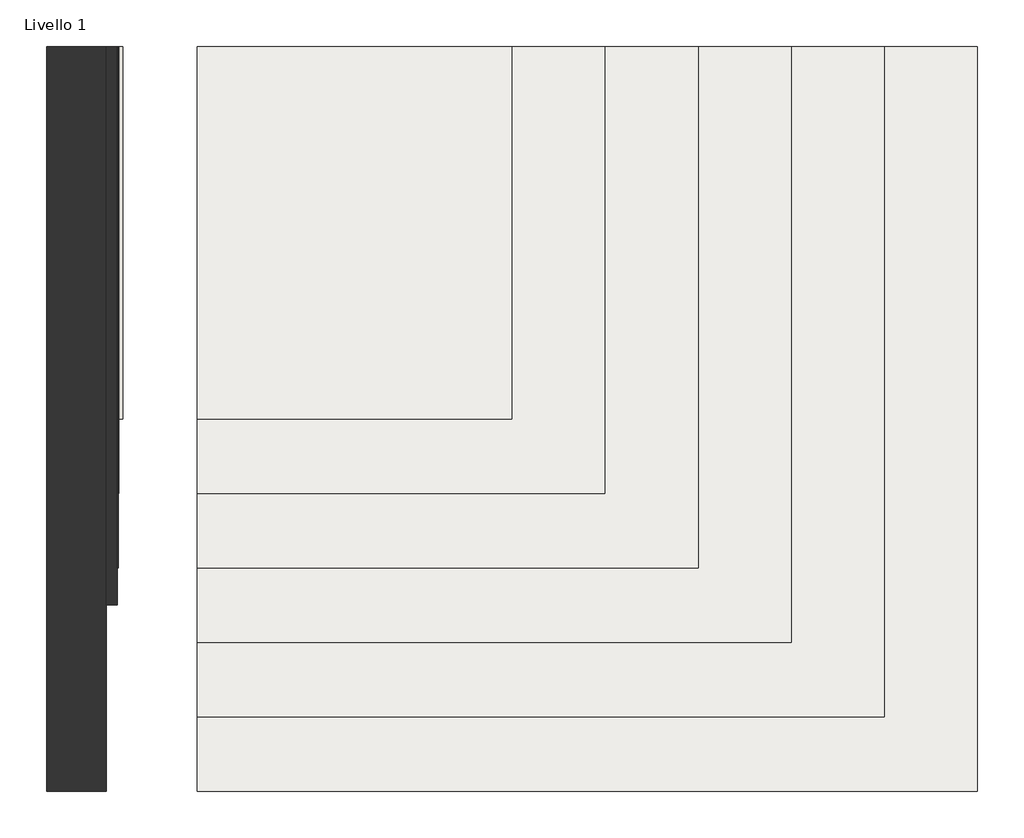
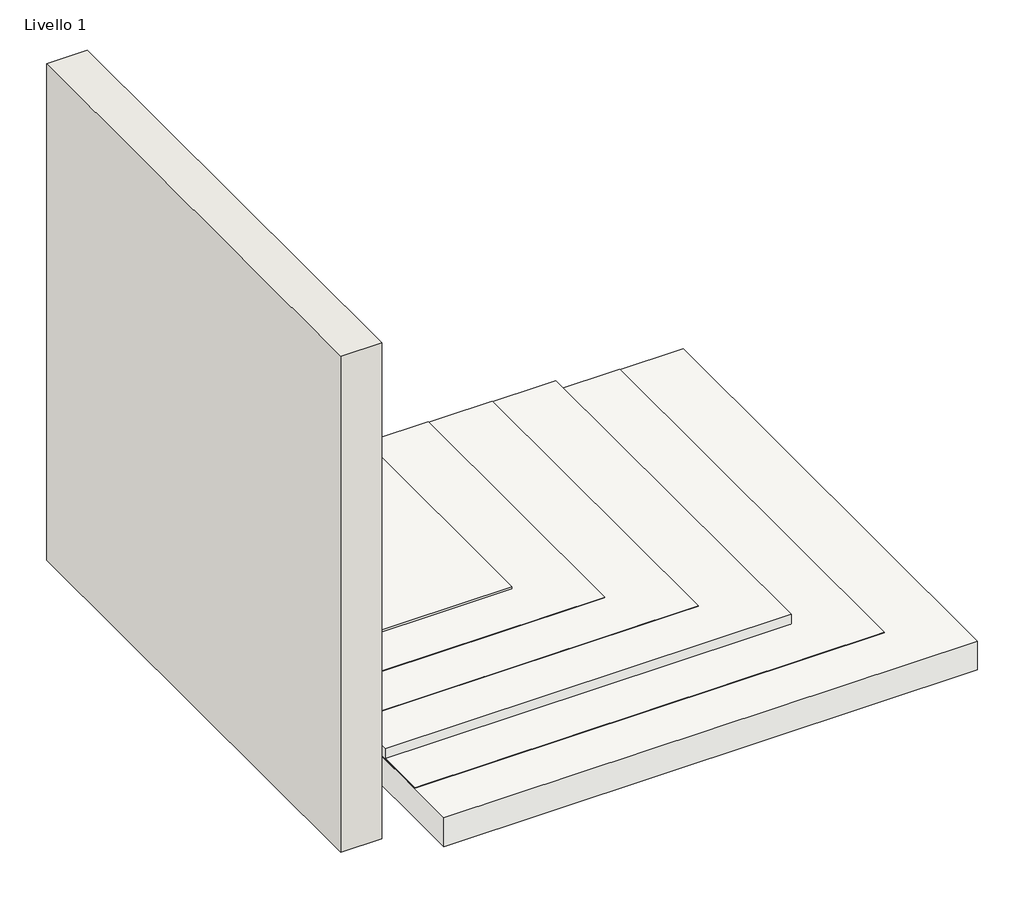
# One storey: 1 slab, 1 wall.
"""IFC4 building model written with IfcOpenShell, lengths in millimetres."""

from ifc_helpers import new_model, si_unit, frame, origin, origin_with_axes, place, context, project, spatial, polyline, outline, extrude, element, save

model = new_model("IFC4")

# Units and contexts
model_context = context("Model", 3, world=origin())
ifc_project = project(units=[si_unit("LENGTHUNIT", "METRE", prefix="MILLI")], contexts=[model_context])

# Site, building, storey
site = spatial("IfcSite", under=ifc_project)
building = spatial("IfcBuilding", under=site)
storey = spatial("IfcBuildingStorey", under=building, Name="Livello 1", Elevation=0.0)

# Slab
placement = place(None, origin())
element("IfcSlab", 1, ObjectType="MAPEI - Sistema para a impermeabilização e assentamento de pastilhas de vidro em piscina", at=placement, inside=storey, context=model_context, shape_type="SweptSolid", body=[
    extrude(outline(polyline([(1457.7963918, 1184.9122843), (614.0963918, 1184.9122843), (614.0963918, 2184.9122843), (1457.7963918, 2184.9122843), (1457.7963918, 1184.9122843)])), frame((0.0, 0.0, -10.0), z_axis=(0.0, 0.0, 1.0), x_axis=(1.0, 0.0, 0.0)), (0.0, 0.0, 1.0), 10.0),
    extrude(outline(polyline([(1707.7963918, 984.9122843), (614.0963918, 984.9122843), (614.0963918, 2184.9122843), (1707.7963918, 2184.9122843), (1707.7963918, 984.9122843)])), frame((0.0, 0.0, -12.0), z_axis=(0.0, 0.0, 1.0), x_axis=(1.0, 0.0, 0.0)), (0.0, 0.0, 1.0), 2.0),
    extrude(outline(polyline([(1957.7963918, 784.9122843), (614.0963918, 784.9122843), (614.0963918, 2184.9122843), (1957.7963918, 2184.9122843), (1957.7963918, 784.9122843)])), frame((0.0, 0.0, -14.3), z_axis=(0.0, 0.0, 1.0), x_axis=(1.0, 0.0, 0.0)), (0.0, 0.0, 1.0), 2.3),
    extrude(outline(polyline([(2207.7963918, 584.9122843), (614.0963918, 584.9122843), (614.0963918, 2184.9122843), (2207.7963918, 2184.9122843), (2207.7963918, 584.9122843)])), frame((0.0, 0.0, -54.3), z_axis=(0.0, 0.0, 1.0), x_axis=(1.0, 0.0, 0.0)), (0.0, 0.0, 1.0), 40.0),
    extrude(outline(polyline([(2457.7963918, 384.9122843), (614.0963918, 384.9122843), (614.0963918, 2184.9122843), (2457.7963918, 2184.9122843), (2457.7963918, 384.9122843)])), frame((0.0, 0.0, -57.3), z_axis=(0.0, 0.0, 1.0), x_axis=(1.0, 0.0, 0.0)), (0.0, 0.0, 1.0), 3.0),
    extrude(outline(polyline([(2707.7963918, 184.9122843), (614.0963918, 184.9122843), (614.0963918, 2184.9122843), (2707.7963918, 2184.9122843), (2707.7963918, 184.9122843)])), frame((0.0, 0.0, -177.3), z_axis=(0.0, 0.0, 1.0), x_axis=(1.0, 0.0, 0.0)), (0.0, 0.0, 1.0), 120.0),
])

# Wall
element("IfcWall", 2, ObjectType="MAPEI - Sistema para a impermeabilização e assentamento de pastilhas de vidro em piscina", at=placement, inside=storey, context=model_context, shape_type="SweptSolid", body=[
    extrude(outline(polyline([(412.9463918, 2184.9122843), (412.9463918, 1184.9122843), (402.9463918, 1184.9122843), (402.9463918, 2184.9122843), (412.9463918, 2184.9122843)])), origin_with_axes(), (0.0, 0.0, 1.0), 1000.0),
    extrude(outline(polyline([(402.9463918, 984.9122843), (400.9463918, 984.9122843), (400.9463918, 2184.9122843), (402.9463918, 2184.9122843), (402.9463918, 984.9122843)])), frame((0.0, 0.0, -10.0), z_axis=(0.0, 0.0, 1.0), x_axis=(1.0, 0.0, 0.0)), (0.0, 0.0, 1.0), 1260.0),
    extrude(outline(polyline([(400.9463918, 784.9122843), (398.9463918, 784.9122843), (398.9463918, 2184.9122843), (400.9463918, 2184.9122843), (400.9463918, 784.9122843)])), frame((0.0, 0.0, -14.0), z_axis=(0.0, 0.0, 1.0), x_axis=(1.0, 0.0, 0.0)), (0.0, 0.0, 1.0), 1514.0),
    extrude(outline(polyline([(398.9463918, 684.9122843), (368.9463918, 684.9122843), (368.9463918, 2184.9122843), (398.9463918, 2184.9122843), (398.9463918, 684.9122843)])), frame((0.0, 0.0, -16.3), z_axis=(0.0, 0.0, 1.0), x_axis=(1.0, 0.0, 0.0)), (0.0, 0.0, 1.0), 1766.3),
    extrude(outline(polyline([(208.9463918, 184.9122843), (208.9463918, 2184.9122843), (368.9463918, 2184.9122843), (368.9463918, 184.9122843), (208.9463918, 184.9122843)])), frame((0.0, 0.0, -59.3), z_axis=(0.0, 0.0, 1.0), x_axis=(1.0, 0.0, 0.0)), (0.0, 0.0, 1.0), 2059.3),
])

save(model, "model.ifc")
